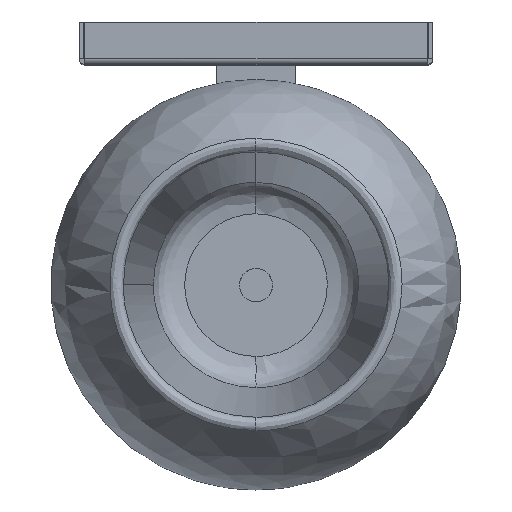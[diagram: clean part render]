
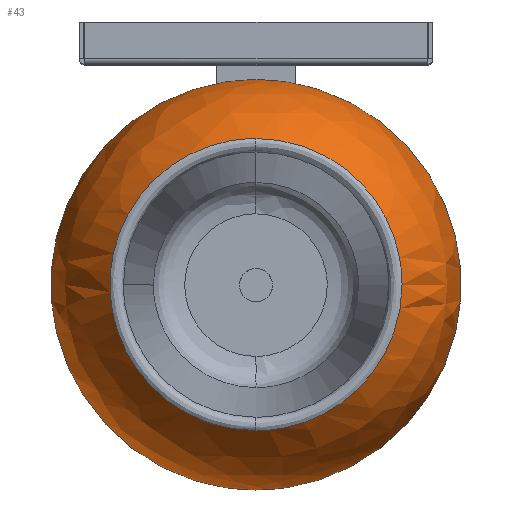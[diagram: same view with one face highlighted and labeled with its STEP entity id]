
A CAD part, top view. The second image highlights one B-rep face of the part: STEP entity #43.
In plain terms, the highlighted free-form (B-spline) face has degree [2, 2] with [5, 5] control points.
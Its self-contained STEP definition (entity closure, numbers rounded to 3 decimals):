
#28=FACE_BOUND('',#282,.T.);
#43=ADVANCED_FACE('',(#162,#28),#1763,.T.);
#162=FACE_OUTER_BOUND('',#281,.T.);
#281=EDGE_LOOP('',(#428,#429));
#282=EDGE_LOOP('',(#430,#431,#432));
#428=ORIENTED_EDGE('',*,*,#980,.T.);
#429=ORIENTED_EDGE('',*,*,#981,.T.);
#430=ORIENTED_EDGE('',*,*,#983,.T.);
#431=ORIENTED_EDGE('',*,*,#987,.T.);
#432=ORIENTED_EDGE('',*,*,#990,.T.);
#980=EDGE_CURVE('',#1533,#1534,#1254,.T.);
#981=EDGE_CURVE('',#1534,#1533,#1255,.T.);
#983=EDGE_CURVE('',#1535,#1536,#1257,.T.);
#987=EDGE_CURVE('',#1536,#1537,#1261,.T.);
#990=EDGE_CURVE('',#1537,#1535,#1264,.T.);
#1254=(
BOUNDED_CURVE()
B_SPLINE_CURVE(2,(#3459,#3460,#3461,#3462,#3463),.UNSPECIFIED.,.F.,.F.)
B_SPLINE_CURVE_WITH_KNOTS((3,2,3),(0.,102.102,204.204),
 .UNSPECIFIED.)
CURVE()
GEOMETRIC_REPRESENTATION_ITEM()
RATIONAL_B_SPLINE_CURVE((1.,0.707,1.,0.707,1.))
REPRESENTATION_ITEM('')
);
#1255=(
BOUNDED_CURVE()
B_SPLINE_CURVE(2,(#3464,#3465,#3466,#3467,#3468),.UNSPECIFIED.,.F.,.F.)
B_SPLINE_CURVE_WITH_KNOTS((3,2,3),(-204.204,-102.102,
0.),.UNSPECIFIED.)
CURVE()
GEOMETRIC_REPRESENTATION_ITEM()
RATIONAL_B_SPLINE_CURVE((1.,0.707,1.,0.707,1.))
REPRESENTATION_ITEM('')
);
#1257=(
BOUNDED_CURVE()
B_SPLINE_CURVE(2,(#3472,#3473,#3474,#3475,#3476),.UNSPECIFIED.,.F.,.F.)
B_SPLINE_CURVE_WITH_KNOTS((3,2,3),(-185.12,-92.56,
0.),.UNSPECIFIED.)
CURVE()
GEOMETRIC_REPRESENTATION_ITEM()
RATIONAL_B_SPLINE_CURVE((1.,0.707,1.,0.707,1.))
REPRESENTATION_ITEM('')
);
#1261=(
BOUNDED_CURVE()
B_SPLINE_CURVE(2,(#3490,#3491,#3492),.UNSPECIFIED.,.F.,.F.)
B_SPLINE_CURVE_WITH_KNOTS((3,3),(-92.56,0.),.UNSPECIFIED.)
CURVE()
GEOMETRIC_REPRESENTATION_ITEM()
RATIONAL_B_SPLINE_CURVE((1.,0.707,1.))
REPRESENTATION_ITEM('')
);
#1264=(
BOUNDED_CURVE()
B_SPLINE_CURVE(2,(#3499,#3500,#3501),.UNSPECIFIED.,.F.,.F.)
B_SPLINE_CURVE_WITH_KNOTS((3,3),(-92.56,0.),.UNSPECIFIED.)
CURVE()
GEOMETRIC_REPRESENTATION_ITEM()
RATIONAL_B_SPLINE_CURVE((1.,0.707,1.))
REPRESENTATION_ITEM('')
);
#1533=VERTEX_POINT('',#3366);
#1534=VERTEX_POINT('',#3367);
#1535=VERTEX_POINT('',#3368);
#1536=VERTEX_POINT('',#3369);
#1537=VERTEX_POINT('',#3370);
#1763=(
BOUNDED_SURFACE()
B_SPLINE_SURFACE(2,2,((#2363,#2364,#2365,#2366,#2367),(#2368,#2369,#2370,
#2371,#2372),(#2373,#2374,#2375,#2376,#2377),(#2378,#2379,#2380,#2381,#2382),
(#2383,#2384,#2385,#2386,#2387)),.UNSPECIFIED.,.F.,.F.,.F.)
B_SPLINE_SURFACE_WITH_KNOTS((3,2,3),(3,2,3),(0.,102.102,204.204),
(0.,102.102,204.204),.UNSPECIFIED.)
GEOMETRIC_REPRESENTATION_ITEM()
RATIONAL_B_SPLINE_SURFACE(((1.,0.707,1.,0.707,1.),
(0.707,0.5,0.707,0.5,0.707),(1.,0.707,
1.,0.707,1.),(0.707,0.5,0.707,0.5,0.707),
(1.,0.707,1.,0.707,1.)))
REPRESENTATION_ITEM('')
SURFACE()
);
#2363=CARTESIAN_POINT('',(18.069,-93.632,299.895));
#2364=CARTESIAN_POINT('',(-46.931,-93.632,299.895));
#2365=CARTESIAN_POINT('',(-46.931,-28.632,299.895));
#2366=CARTESIAN_POINT('',(-46.931,36.368,299.895));
#2367=CARTESIAN_POINT('',(18.069,36.368,299.895));
#2368=CARTESIAN_POINT('',(18.069,-93.632,299.895));
#2369=CARTESIAN_POINT('',(-46.931,-93.632,364.895));
#2370=CARTESIAN_POINT('',(-46.931,-28.632,364.895));
#2371=CARTESIAN_POINT('',(-46.931,36.368,364.895));
#2372=CARTESIAN_POINT('',(18.069,36.368,299.895));
#2373=CARTESIAN_POINT('',(18.069,-93.632,299.895));
#2374=CARTESIAN_POINT('',(18.069,-93.632,364.895));
#2375=CARTESIAN_POINT('',(18.069,-28.632,364.895));
#2376=CARTESIAN_POINT('',(18.069,36.368,364.895));
#2377=CARTESIAN_POINT('',(18.069,36.368,299.895));
#2378=CARTESIAN_POINT('',(18.069,-93.632,299.895));
#2379=CARTESIAN_POINT('',(83.069,-93.632,364.895));
#2380=CARTESIAN_POINT('',(83.069,-28.632,364.895));
#2381=CARTESIAN_POINT('',(83.069,36.368,364.895));
#2382=CARTESIAN_POINT('',(18.069,36.368,299.895));
#2383=CARTESIAN_POINT('',(18.069,-93.632,299.895));
#2384=CARTESIAN_POINT('',(83.069,-93.632,299.895));
#2385=CARTESIAN_POINT('',(83.069,-28.632,299.895));
#2386=CARTESIAN_POINT('',(83.069,36.368,299.895));
#2387=CARTESIAN_POINT('',(18.069,36.368,299.895));
#3366=CARTESIAN_POINT('',(18.069,-93.632,299.895));
#3367=CARTESIAN_POINT('',(18.069,36.368,299.895));
#3368=CARTESIAN_POINT('',(18.069,-74.912,345.537));
#3369=CARTESIAN_POINT('',(18.069,17.648,345.537));
#3370=CARTESIAN_POINT('',(64.349,-28.632,345.537));
#3459=CARTESIAN_POINT('',(18.069,-93.632,299.895));
#3460=CARTESIAN_POINT('',(83.069,-93.632,299.895));
#3461=CARTESIAN_POINT('',(83.069,-28.632,299.895));
#3462=CARTESIAN_POINT('',(83.069,36.368,299.895));
#3463=CARTESIAN_POINT('',(18.069,36.368,299.895));
#3464=CARTESIAN_POINT('',(18.069,36.368,299.895));
#3465=CARTESIAN_POINT('',(-46.931,36.368,299.895));
#3466=CARTESIAN_POINT('',(-46.931,-28.632,299.895));
#3467=CARTESIAN_POINT('',(-46.931,-93.632,299.895));
#3468=CARTESIAN_POINT('',(18.069,-93.632,299.895));
#3472=CARTESIAN_POINT('',(18.069,-74.912,345.537));
#3473=CARTESIAN_POINT('',(-28.211,-74.912,345.537));
#3474=CARTESIAN_POINT('',(-28.211,-28.632,345.537));
#3475=CARTESIAN_POINT('',(-28.211,17.648,345.537));
#3476=CARTESIAN_POINT('',(18.069,17.648,345.537));
#3490=CARTESIAN_POINT('',(18.069,17.648,345.537));
#3491=CARTESIAN_POINT('',(64.349,17.648,345.537));
#3492=CARTESIAN_POINT('',(64.349,-28.632,345.537));
#3499=CARTESIAN_POINT('',(64.349,-28.632,345.537));
#3500=CARTESIAN_POINT('',(64.349,-74.912,345.537));
#3501=CARTESIAN_POINT('',(18.069,-74.912,345.537));
